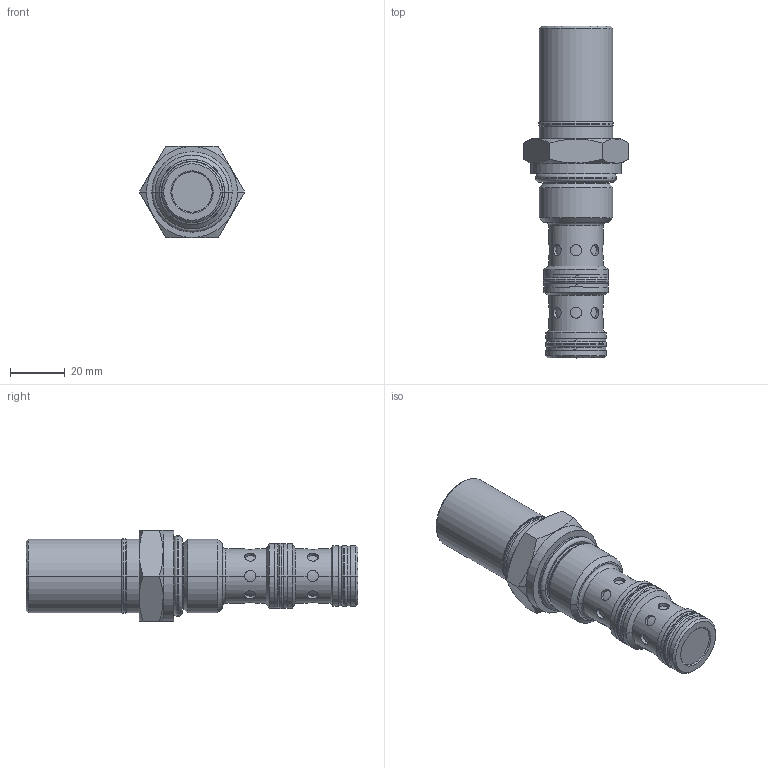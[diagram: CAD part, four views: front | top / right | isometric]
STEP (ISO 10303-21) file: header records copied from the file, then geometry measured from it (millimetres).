
FILE_DESCRIPTION((''),'2;1');
FILE_NAME('AODV-12-3_-1B-OUT','2015-12-23T',('torrese'),(''),'PRO/ENGINEER BY PARAMETRIC TECHNOLOGY CORPORATION, 2015070','PRO/ENGINEER BY PARAMETRIC TECHNOLOGY CORPORATION, 2015070','');
FILE_SCHEMA(('CONFIG_CONTROL_DESIGN','GEOMETRIC_VALIDATION_PROPERTIES_MIM'));
Length unit declared in the file: inch
Products named in the file (1): AODV-12-3_-1B-OUT
Bounding box: 38.48 x 121.28 x 33.32 mm (x, y, z)
Volume: 62088 mm3; surface area: 12851.6 mm2
Topology: 1 solids, 1 shells, 179 faces, 384 edges, 232 vertices
Faces by surface type: cylinder 97, plane 34, cone 24, torus 24
Entity records: 13594 total; most frequent: CARTESIAN_POINT 7359, DIRECTION 814, ORIENTED_EDGE 768, PRESENTATION_STYLE_ASSIGNMENT 527, STYLED_ITEM 391, CURVE_STYLE 384, EDGE_CURVE 384, AXIS2_PLACEMENT_3D 343
